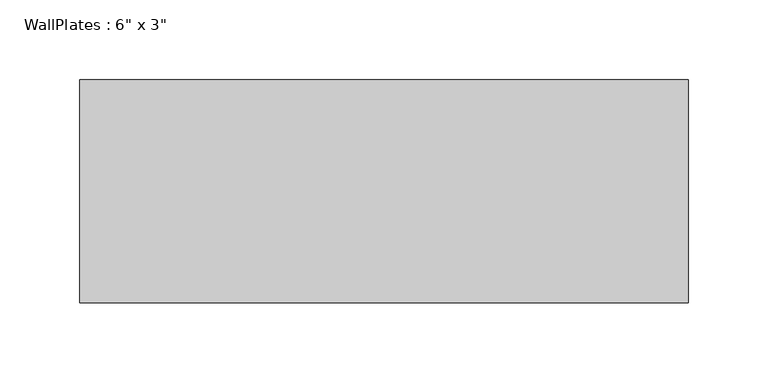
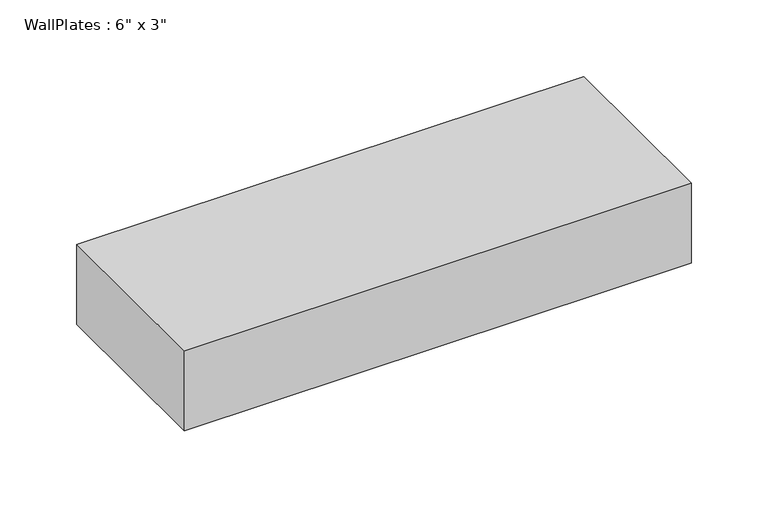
"""IFC4 building model written with IfcOpenShell, lengths in millimetres: beam geometry."""

from ifc_helpers import new_model, si_unit, frame, origin, place, context, project, spatial, polyline, outline, extrude, source, transform, mapped, element, save


def beam_1a8eef9e(model_context):
    return source(origin(), model_context, "Body", "SweptSolid", [
        extrude(outline(polyline([(-190.5, -69.85), (-190.5, 69.85), (190.5, 69.85), (190.5, -69.85), (-190.5, -69.85)])), frame((0.0, 0.0, -31.75), z_axis=(0.0, 0.0, 1.0), x_axis=(1.0, 0.0, 0.0)), (0.0, 0.0, 1.0), 63.5),
    ])


if __name__ == "__main__":
    model = new_model("IFC4")
    model_context = context("Model", 3, world=origin())
    ifc_project = project(units=[si_unit("LENGTHUNIT", "METRE", prefix="MILLI")], contexts=[model_context])
    site = spatial("IfcSite", under=ifc_project)
    building = spatial("IfcBuilding", under=site)
    placement = place(None, origin())
    beam_shape = beam_1a8eef9e(model_context)
    element("IfcBeam", 1, ObjectType="WallPlates : 6\" x 3\"", at=placement, inside=building, context=model_context, shape_type="MappedRepresentation", body=[
        mapped(beam_shape, transform((0.0, 0.0, 0.0), x_axis=(1.0, 0.0, 0.0), y_axis=(0.0, 1.0, 0.0), z_axis=(0.0, 0.0, 1.0))),
    ])
    save(model, "model.ifc")
